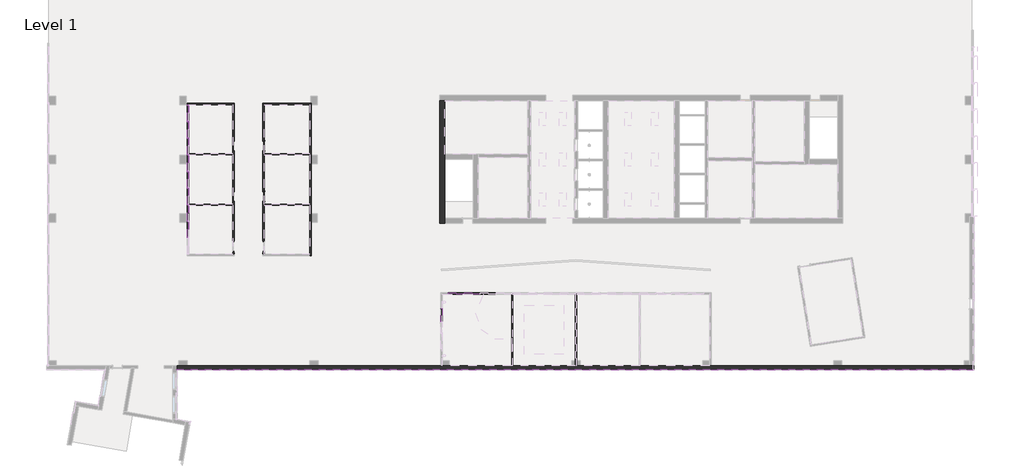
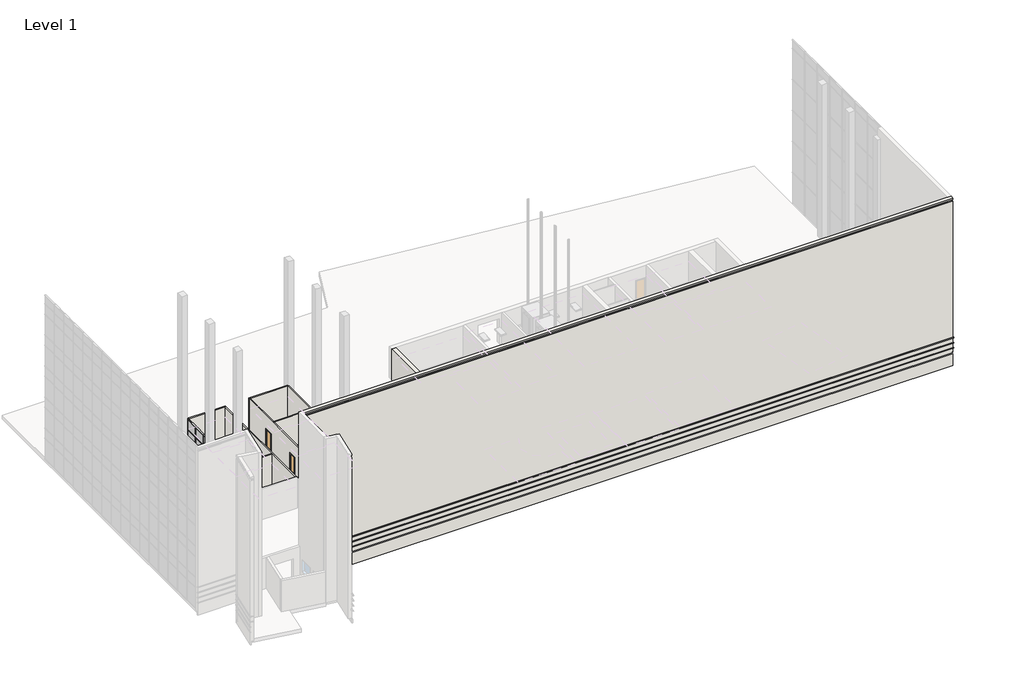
# One storey, part 6 of 23: 51 members, 19 plates, 14 walls, 4 doors, 3 proxies.
"""IFC4 building model written with IfcOpenShell, lengths in millimetres."""

from ifc_helpers import new_model, si_unit, frame, origin, origin_with_axes, place, context, project, spatial, polyline, outline, extrude, faceted_brep, transform, mapped, element, save
from components import door_82111de5, door_92889684, member_fc09b6aa, member_75074519, member_9597caa3, member_b2bde9e6, member_131a91bd, member_8e4b14e5, member_5adcf121, member_e7ed5742, member_d635bea1, member_19b6149e, member_866a01fa, member_d7472725, system_panel_glazed_f771dc8d, system_panel_glazed_f1d9fa5b, system_panel_glazed_9bc9b24f, system_panel_glazed_76e4750d, system_panel_solid_dc1d4dd7, system_panel_solid_f9884c24

model = new_model("IFC4")

# Units and contexts
model_context = context("Model", 3, world=origin())
ifc_project = project(units=[si_unit("LENGTHUNIT", "METRE", prefix="MILLI")], contexts=[model_context])

# Site, building, storey
site = spatial("IfcSite", under=ifc_project)
building = spatial("IfcBuilding", under=site)
storey = spatial("IfcBuildingStorey", under=building, Name="Level 1", Elevation=0.0)

# Proxies
placement = place(None, origin())
element("IfcBuildingElementProxy", 1, Name="Reveals", at=placement, inside=storey, context=model_context, shape_type="SweptSolid", body=[
    extrude(outline(polyline([(15157.6054088, -28056.8103492), (15249.6804088, -28148.8853492), (-57009.4125003, -28148.8853492), (-57101.4875003, -28056.8103492), (15157.6054088, -28056.8103492)])), frame((0.0, 0.0, 1625.6), z_axis=(0.0, 0.0, 1.0), x_axis=(1.0, 0.0, 0.0)), (0.0, 0.0, 1.0), 67.7333333),
])
element("IfcBuildingElementProxy", 2, Name="Reveals", at=placement, inside=storey, context=model_context, shape_type="SweptSolid", body=[
    extrude(outline(polyline([(15157.6054088, -28056.8103492), (15249.6804088, -28148.8853492), (-57009.4125003, -28148.8853492), (-57101.4875003, -28056.8103492), (15157.6054088, -28056.8103492)])), frame((0.0, 0.0, 2235.2), z_axis=(0.0, 0.0, 1.0), x_axis=(1.0, 0.0, 0.0)), (0.0, 0.0, 1.0), 67.7333333),
])
element("IfcBuildingElementProxy", 3, Name="Reveals", at=placement, inside=storey, context=model_context, shape_type="SweptSolid", body=[
    extrude(outline(polyline([(15157.6054088, -28056.8103492), (15249.6804088, -28148.8853492), (-57009.4125003, -28148.8853492), (-57101.4875003, -28056.8103492), (15157.6054088, -28056.8103492)])), frame((0.0, 0.0, 2844.8), z_axis=(0.0, 0.0, 1.0), x_axis=(1.0, 0.0, 0.0)), (0.0, 0.0, 1.0), 67.7333333),
])

# Doors
door_shape = door_82111de5(model_context)
element("IfcDoor", 4, ObjectType="Single-Flush : 34\" x 80\"", at=placement, inside=storey, context=model_context, shape_type="MappedRepresentation", body=[
    mapped(door_shape, transform((-51923.5856498, -12385.0103492, 0.0), x_axis=(0.0, -1.0, 0.0), y_axis=(1.0, 0.0, 0.0), z_axis=(0.0, 0.0, 1.0))),
])
element("IfcDoor", 5, ObjectType="Single-Flush : 34\" x 80\"", at=placement, inside=storey, context=model_context, shape_type="MappedRepresentation", body=[
    mapped(door_shape, transform((-51923.5856498, -7813.0103492, 0.0), x_axis=(0.0, -1.0, 0.0), y_axis=(1.0, 0.0, 0.0), z_axis=(0.0, 0.0, 1.0))),
])
door_2_shape = door_92889684(model_context)
element("IfcDoor", 6, ObjectType="Single-Flush : 34\" x 80\"", at=placement, inside=storey, context=model_context, shape_type="MappedRepresentation", body=[
    mapped(door_2_shape, transform((-49194.8999355, -12385.0103492, 0.0), x_axis=(0.0, -1.0, 0.0), y_axis=(1.0, 0.0, 0.0), z_axis=(0.0, 0.0, 1.0))),
])
element("IfcDoor", 7, ObjectType="Single-Flush : 34\" x 80\"", at=placement, inside=storey, context=model_context, shape_type="MappedRepresentation", body=[
    mapped(door_2_shape, transform((-49194.8999355, -7813.0103492, 0.0), x_axis=(0.0, -1.0, 0.0), y_axis=(1.0, 0.0, 0.0), z_axis=(0.0, 0.0, 1.0))),
])

# Members
member_shape = member_fc09b6aa(model_context)
element("IfcMember", 8, ObjectType="Rectangular Mullion : 2.5\" x 5\" rectangular", at=placement, inside=storey, context=model_context, shape_type="MappedRepresentation", body=[
    mapped(member_shape, transform((-56063.7856498, -14635.7325714, 2438.4), x_axis=(0.0, 0.0, 1.0), y_axis=(1.0, 0.0, 0.0), z_axis=(0.0, 1.0, 0.0))),
])
element("IfcMember", 9, ObjectType="Rectangular Mullion : 2.5\" x 5\" rectangular", at=placement, inside=storey, context=model_context, shape_type="MappedRepresentation", body=[
    mapped(member_shape, transform((-56063.7856498, -13125.8436825, 2438.4), x_axis=(0.0, 0.0, 1.0), y_axis=(1.0, 0.0, 0.0), z_axis=(0.0, 1.0, 0.0))),
])
element("IfcMember", 10, ObjectType="Rectangular Mullion : 2.5\" x 5\" rectangular", at=placement, inside=storey, context=model_context, shape_type="MappedRepresentation", body=[
    mapped(member_shape, transform((-56063.7856498, -11615.9547936, 2438.4), x_axis=(0.0, 0.0, 1.0), y_axis=(1.0, 0.0, 0.0), z_axis=(0.0, 1.0, 0.0))),
])
element("IfcMember", 11, ObjectType="Rectangular Mullion : 2.5\" x 5\" rectangular", at=placement, inside=storey, context=model_context, shape_type="MappedRepresentation", body=[
    mapped(member_shape, transform((-56063.7856498, -10106.0659048, 2438.4), x_axis=(0.0, 0.0, 1.0), y_axis=(1.0, 0.0, 0.0), z_axis=(0.0, 1.0, 0.0))),
])
element("IfcMember", 12, ObjectType="Rectangular Mullion : 2.5\" x 5\" rectangular", at=placement, inside=storey, context=model_context, shape_type="MappedRepresentation", body=[
    mapped(member_shape, transform((-56063.7856498, -8596.1770159, 2438.4), x_axis=(0.0, 0.0, 1.0), y_axis=(1.0, 0.0, 0.0), z_axis=(0.0, 1.0, 0.0))),
])
element("IfcMember", 13, ObjectType="Rectangular Mullion : 2.5\" x 5\" rectangular", at=placement, inside=storey, context=model_context, shape_type="MappedRepresentation", body=[
    mapped(member_shape, transform((-56063.7856498, -7086.288127, 2438.4), x_axis=(0.0, 0.0, 1.0), y_axis=(1.0, 0.0, 0.0), z_axis=(0.0, 1.0, 0.0))),
])
element("IfcMember", 14, ObjectType="Rectangular Mullion : 2.5\" x 5\" rectangular", at=placement, inside=storey, context=model_context, shape_type="MappedRepresentation", body=[
    mapped(member_shape, transform((-56063.7856498, -5576.3992381, 2438.4), x_axis=(0.0, 0.0, 1.0), y_axis=(1.0, 0.0, 0.0), z_axis=(0.0, 1.0, 0.0))),
])
member_2_shape = member_75074519(model_context)
element("IfcMember", 15, ObjectType="Rectangular Mullion : 2.5\" x 5\" rectangular", at=placement, inside=storey, context=model_context, shape_type="MappedRepresentation", body=[
    mapped(member_2_shape, transform((-33067.7142212, -22546.5978492, 2413.0), x_axis=(0.0, 0.0, 1.0), y_axis=(1.0, 0.0, 0.0), z_axis=(0.0, 1.0, 0.0))),
])
member_3_shape = member_9597caa3(model_context)
element("IfcMember", 16, ObjectType="Rectangular Mullion : 2.5\" x 5\" rectangular", at=placement, inside=storey, context=model_context, shape_type="MappedRepresentation", body=[
    mapped(member_3_shape, transform((-56063.7856498, -14635.7325714, 63.5), x_axis=(0.0, 1.0, 0.0), y_axis=(1.0, 0.0, 0.0), z_axis=(0.0, 0.0, -1.0))),
])
element("IfcMember", 17, ObjectType="Rectangular Mullion : 2.5\" x 5\" rectangular", at=placement, inside=storey, context=model_context, shape_type="MappedRepresentation", body=[
    mapped(member_3_shape, transform((-56063.7856498, -13125.8436825, 63.5), x_axis=(0.0, 1.0, 0.0), y_axis=(1.0, 0.0, 0.0), z_axis=(0.0, 0.0, -1.0))),
])
element("IfcMember", 18, ObjectType="Rectangular Mullion : 2.5\" x 5\" rectangular", at=placement, inside=storey, context=model_context, shape_type="MappedRepresentation", body=[
    mapped(member_3_shape, transform((-56063.7856498, -11615.9547936, 63.5), x_axis=(0.0, 1.0, 0.0), y_axis=(1.0, 0.0, 0.0), z_axis=(0.0, 0.0, -1.0))),
])
element("IfcMember", 19, ObjectType="Rectangular Mullion : 2.5\" x 5\" rectangular", at=placement, inside=storey, context=model_context, shape_type="MappedRepresentation", body=[
    mapped(member_3_shape, transform((-56063.7856498, -10106.0659048, 63.5), x_axis=(0.0, 1.0, 0.0), y_axis=(1.0, 0.0, 0.0), z_axis=(0.0, 0.0, -1.0))),
])
element("IfcMember", 20, ObjectType="Rectangular Mullion : 2.5\" x 5\" rectangular", at=placement, inside=storey, context=model_context, shape_type="MappedRepresentation", body=[
    mapped(member_3_shape, transform((-56063.7856498, -8596.1770159, 63.5), x_axis=(0.0, 1.0, 0.0), y_axis=(1.0, 0.0, 0.0), z_axis=(0.0, 0.0, -1.0))),
])
element("IfcMember", 21, ObjectType="Rectangular Mullion : 2.5\" x 5\" rectangular", at=placement, inside=storey, context=model_context, shape_type="MappedRepresentation", body=[
    mapped(member_3_shape, transform((-56063.7856498, -7086.288127, 63.5), x_axis=(0.0, 1.0, 0.0), y_axis=(1.0, 0.0, 0.0), z_axis=(0.0, 0.0, -1.0))),
])
element("IfcMember", 22, ObjectType="Rectangular Mullion : 2.5\" x 5\" rectangular", at=placement, inside=storey, context=model_context, shape_type="MappedRepresentation", body=[
    mapped(member_3_shape, transform((-56063.7856498, -5576.3992381, 63.5), x_axis=(0.0, 1.0, 0.0), y_axis=(1.0, 0.0, 0.0), z_axis=(0.0, 0.0, -1.0))),
])
member_4_shape = member_b2bde9e6(model_context)
element("IfcMember", 23, ObjectType="Rectangular Mullion : 2.5\" x 5\" rectangular", at=placement, inside=storey, context=model_context, shape_type="MappedRepresentation", body=[
    mapped(member_4_shape, transform((-56063.7856498, -4066.5103492, 63.5), x_axis=(0.0, 1.0, 0.0), y_axis=(1.0, 0.0, 0.0), z_axis=(0.0, 0.0, -1.0))),
])
member_5_shape = member_131a91bd(model_context)
element("IfcMember", 24, ObjectType="Rectangular Mullion : 2.5\" x 5\" rectangular", at=placement, inside=storey, context=model_context, shape_type="MappedRepresentation", body=[
    mapped(member_5_shape, transform((-56063.7856498, -4066.5103492, 3657.6), x_axis=(0.0, 0.0, 1.0), y_axis=(1.0, 0.0, 0.0), z_axis=(0.0, 1.0, 0.0))),
])
element("IfcMember", 25, ObjectType="Rectangular Mullion : 2.5\" x 5\" rectangular", at=placement, inside=storey, context=model_context, shape_type="MappedRepresentation", body=[
    mapped(member_5_shape, transform((-56063.7856498, -14635.7325714, 3657.6), x_axis=(0.0, 0.0, 1.0), y_axis=(1.0, 0.0, 0.0), z_axis=(0.0, 1.0, 0.0))),
])
element("IfcMember", 26, ObjectType="Rectangular Mullion : 2.5\" x 5\" rectangular", at=placement, inside=storey, context=model_context, shape_type="MappedRepresentation", body=[
    mapped(member_5_shape, transform((-56063.7856498, -13125.8436825, 3657.6), x_axis=(0.0, 0.0, 1.0), y_axis=(1.0, 0.0, 0.0), z_axis=(0.0, 1.0, 0.0))),
])
element("IfcMember", 27, ObjectType="Rectangular Mullion : 2.5\" x 5\" rectangular", at=placement, inside=storey, context=model_context, shape_type="MappedRepresentation", body=[
    mapped(member_5_shape, transform((-56063.7856498, -11615.9547936, 3657.6), x_axis=(0.0, 0.0, 1.0), y_axis=(1.0, 0.0, 0.0), z_axis=(0.0, 1.0, 0.0))),
])
element("IfcMember", 28, ObjectType="Rectangular Mullion : 2.5\" x 5\" rectangular", at=placement, inside=storey, context=model_context, shape_type="MappedRepresentation", body=[
    mapped(member_5_shape, transform((-56063.7856498, -10106.0659048, 3657.6), x_axis=(0.0, 0.0, 1.0), y_axis=(1.0, 0.0, 0.0), z_axis=(0.0, 1.0, 0.0))),
])
element("IfcMember", 29, ObjectType="Rectangular Mullion : 2.5\" x 5\" rectangular", at=placement, inside=storey, context=model_context, shape_type="MappedRepresentation", body=[
    mapped(member_5_shape, transform((-56063.7856498, -8596.1770159, 3657.6), x_axis=(0.0, 0.0, 1.0), y_axis=(1.0, 0.0, 0.0), z_axis=(0.0, 1.0, 0.0))),
])
element("IfcMember", 30, ObjectType="Rectangular Mullion : 2.5\" x 5\" rectangular", at=placement, inside=storey, context=model_context, shape_type="MappedRepresentation", body=[
    mapped(member_5_shape, transform((-56063.7856498, -7086.288127, 3657.6), x_axis=(0.0, 0.0, 1.0), y_axis=(1.0, 0.0, 0.0), z_axis=(0.0, 1.0, 0.0))),
])
element("IfcMember", 31, ObjectType="Rectangular Mullion : 2.5\" x 5\" rectangular", at=placement, inside=storey, context=model_context, shape_type="MappedRepresentation", body=[
    mapped(member_5_shape, transform((-56063.7856498, -5576.3992381, 3657.6), x_axis=(0.0, 0.0, 1.0), y_axis=(1.0, 0.0, 0.0), z_axis=(0.0, 1.0, 0.0))),
])
element("IfcMember", 32, ObjectType="Rectangular Mullion : 2.5\" x 5\" rectangular", at=placement, inside=storey, context=model_context, shape_type="MappedRepresentation", body=[
    mapped(member_5_shape, transform((-56063.7856498, -14635.7325714, 0.0), x_axis=(0.0, 0.0, -1.0), y_axis=(1.0, 0.0, 0.0), z_axis=(0.0, -1.0, 0.0))),
])
element("IfcMember", 33, ObjectType="Rectangular Mullion : 2.5\" x 5\" rectangular", at=placement, inside=storey, context=model_context, shape_type="MappedRepresentation", body=[
    mapped(member_5_shape, transform((-56063.7856498, -13125.8436825, 0.0), x_axis=(0.0, 0.0, -1.0), y_axis=(1.0, 0.0, 0.0), z_axis=(0.0, -1.0, 0.0))),
])
element("IfcMember", 34, ObjectType="Rectangular Mullion : 2.5\" x 5\" rectangular", at=placement, inside=storey, context=model_context, shape_type="MappedRepresentation", body=[
    mapped(member_5_shape, transform((-56063.7856498, -11615.9547936, 0.0), x_axis=(0.0, 0.0, -1.0), y_axis=(1.0, 0.0, 0.0), z_axis=(0.0, -1.0, 0.0))),
])
element("IfcMember", 35, ObjectType="Rectangular Mullion : 2.5\" x 5\" rectangular", at=placement, inside=storey, context=model_context, shape_type="MappedRepresentation", body=[
    mapped(member_5_shape, transform((-56063.7856498, -10106.0659048, 0.0), x_axis=(0.0, 0.0, -1.0), y_axis=(1.0, 0.0, 0.0), z_axis=(0.0, -1.0, 0.0))),
])
element("IfcMember", 36, ObjectType="Rectangular Mullion : 2.5\" x 5\" rectangular", at=placement, inside=storey, context=model_context, shape_type="MappedRepresentation", body=[
    mapped(member_5_shape, transform((-56063.7856498, -8596.1770159, 0.0), x_axis=(0.0, 0.0, -1.0), y_axis=(1.0, 0.0, 0.0), z_axis=(0.0, -1.0, 0.0))),
])
element("IfcMember", 37, ObjectType="Rectangular Mullion : 2.5\" x 5\" rectangular", at=placement, inside=storey, context=model_context, shape_type="MappedRepresentation", body=[
    mapped(member_5_shape, transform((-56063.7856498, -7086.288127, 0.0), x_axis=(0.0, 0.0, -1.0), y_axis=(1.0, 0.0, 0.0), z_axis=(0.0, -1.0, 0.0))),
])
element("IfcMember", 38, ObjectType="Rectangular Mullion : 2.5\" x 5\" rectangular", at=placement, inside=storey, context=model_context, shape_type="MappedRepresentation", body=[
    mapped(member_5_shape, transform((-56063.7856498, -5576.3992381, 0.0), x_axis=(0.0, 0.0, -1.0), y_axis=(1.0, 0.0, 0.0), z_axis=(0.0, -1.0, 0.0))),
])
member_6_shape = member_8e4b14e5(model_context)
element("IfcMember", 39, ObjectType="Rectangular Mullion : 2.5\" x 5\" rectangular", at=placement, inside=storey, context=model_context, shape_type="MappedRepresentation", body=[
    mapped(member_6_shape, transform((-56063.7856498, -4130.0103492, 2438.4), x_axis=(0.0, 0.0, 1.0), y_axis=(1.0, 0.0, 0.0), z_axis=(0.0, 1.0, 0.0))),
])
member_7_shape = member_5adcf121(model_context)
element("IfcMember", 40, ObjectType="Rectangular Mullion : 2.5\" x 5\" rectangular", at=placement, inside=storey, context=model_context, shape_type="MappedRepresentation", body=[
    mapped(member_7_shape, transform((-33067.7142212, -23765.7978492, 38.1), x_axis=(0.0, 1.0, 0.0), y_axis=(1.0, 0.0, 0.0), z_axis=(0.0, 0.0, -1.0))),
])
element("IfcMember", 41, ObjectType="Rectangular Mullion : 2.5\" x 5\" rectangular", at=placement, inside=storey, context=model_context, shape_type="MappedRepresentation", body=[
    mapped(member_7_shape, transform((-30990.1302926, -21198.8103492, 38.1), x_axis=(1.0, 0.0, 0.0), y_axis=(0.0, -1.0, 0.0), z_axis=(0.0, 0.0, -1.0))),
])
element("IfcMember", 42, ObjectType="Rectangular Mullion : 2.5\" x 5\" rectangular", at=placement, inside=storey, context=model_context, shape_type="MappedRepresentation", body=[
    mapped(member_7_shape, transform((-29543.9177926, -21198.8103492, 38.1), x_axis=(1.0, 0.0, 0.0), y_axis=(0.0, -1.0, 0.0), z_axis=(0.0, 0.0, -1.0))),
])
member_8_shape = member_e7ed5742(model_context)
element("IfcMember", 43, ObjectType="Rectangular Mullion : 2.5\" x 5\" rectangular", at=placement, inside=storey, context=model_context, shape_type="MappedRepresentation", body=[
    mapped(member_8_shape, transform((-33067.7142212, -22546.5978492, 38.1), x_axis=(0.0, 1.0, 0.0), y_axis=(1.0, 0.0, 0.0), z_axis=(0.0, 0.0, -1.0))),
])
element("IfcMember", 44, ObjectType="Rectangular Mullion : 2.5\" x 5\" rectangular", at=placement, inside=storey, context=model_context, shape_type="MappedRepresentation", body=[
    mapped(member_8_shape, transform((-32436.3427926, -21198.8103492, 2349.5), x_axis=(-1.0, 0.0, 0.0), y_axis=(0.0, -1.0, 0.0), z_axis=(0.0, 0.0, 1.0))),
])
member_9_shape = member_d635bea1(model_context)
element("IfcMember", 45, ObjectType="Rectangular Mullion : 2.5\" x 5\" rectangular", at=placement, inside=storey, context=model_context, shape_type="MappedRepresentation", body=[
    mapped(member_9_shape, transform((-33067.7142212, -23797.5478492, -25.4), x_axis=(0.0, 0.0, -1.0), y_axis=(1.0, 0.0, 0.0), z_axis=(0.0, -1.0, 0.0))),
])
member_10_shape = member_19b6149e(model_context)
element("IfcMember", 46, ObjectType="Rectangular Mullion : 2.5\" x 5\" rectangular", at=placement, inside=storey, context=model_context, shape_type="MappedRepresentation", body=[
    mapped(member_10_shape, transform((-30990.1302926, -21198.8103492, 2413.0), x_axis=(0.0, 0.0, 1.0), y_axis=(0.0, -1.0, 0.0), z_axis=(1.0, 0.0, 0.0))),
])
element("IfcMember", 47, ObjectType="Rectangular Mullion : 2.5\" x 5\" rectangular", at=placement, inside=storey, context=model_context, shape_type="MappedRepresentation", body=[
    mapped(member_10_shape, transform((-29543.9177926, -21198.8103492, 2413.0), x_axis=(0.0, 0.0, 1.0), y_axis=(0.0, -1.0, 0.0), z_axis=(1.0, 0.0, 0.0))),
])
element("IfcMember", 48, ObjectType="Rectangular Mullion : 2.5\" x 5\" rectangular", at=placement, inside=storey, context=model_context, shape_type="MappedRepresentation", body=[
    mapped(member_10_shape, transform((-32436.3427926, -21198.8103492, -25.4), x_axis=(0.0, 0.0, -1.0), y_axis=(0.0, -1.0, 0.0), z_axis=(-1.0, 0.0, 0.0))),
])
element("IfcMember", 49, ObjectType="Rectangular Mullion : 2.5\" x 5\" rectangular", at=placement, inside=storey, context=model_context, shape_type="MappedRepresentation", body=[
    mapped(member_10_shape, transform((-30990.1302926, -21198.8103492, -25.4), x_axis=(0.0, 0.0, -1.0), y_axis=(0.0, -1.0, 0.0), z_axis=(-1.0, 0.0, 0.0))),
])
element("IfcMember", 50, ObjectType="Rectangular Mullion : 2.5\" x 5\" rectangular", at=placement, inside=storey, context=model_context, shape_type="MappedRepresentation", body=[
    mapped(member_10_shape, transform((-29543.9177926, -21198.8103492, -25.4), x_axis=(0.0, 0.0, -1.0), y_axis=(0.0, -1.0, 0.0), z_axis=(-1.0, 0.0, 0.0))),
])
member_11_shape = member_866a01fa(model_context)
element("IfcMember", 51, ObjectType="Rectangular Mullion : 2.5\" x 5\" rectangular", at=placement, inside=storey, context=model_context, shape_type="MappedRepresentation", body=[
    mapped(member_11_shape, transform((-56063.7856498, -14635.7325714, 2470.15), x_axis=(0.0, 1.0, 0.0), y_axis=(1.0, 0.0, 0.0), z_axis=(0.0, 0.0, -1.0))),
])
element("IfcMember", 52, ObjectType="Rectangular Mullion : 2.5\" x 5\" rectangular", at=placement, inside=storey, context=model_context, shape_type="MappedRepresentation", body=[
    mapped(member_11_shape, transform((-56063.7856498, -13125.8436825, 2470.15), x_axis=(0.0, 1.0, 0.0), y_axis=(1.0, 0.0, 0.0), z_axis=(0.0, 0.0, -1.0))),
])
element("IfcMember", 53, ObjectType="Rectangular Mullion : 2.5\" x 5\" rectangular", at=placement, inside=storey, context=model_context, shape_type="MappedRepresentation", body=[
    mapped(member_11_shape, transform((-56063.7856498, -11615.9547936, 2470.15), x_axis=(0.0, 1.0, 0.0), y_axis=(1.0, 0.0, 0.0), z_axis=(0.0, 0.0, -1.0))),
])
element("IfcMember", 54, ObjectType="Rectangular Mullion : 2.5\" x 5\" rectangular", at=placement, inside=storey, context=model_context, shape_type="MappedRepresentation", body=[
    mapped(member_11_shape, transform((-56063.7856498, -10106.0659048, 2470.15), x_axis=(0.0, 1.0, 0.0), y_axis=(1.0, 0.0, 0.0), z_axis=(0.0, 0.0, -1.0))),
])
element("IfcMember", 55, ObjectType="Rectangular Mullion : 2.5\" x 5\" rectangular", at=placement, inside=storey, context=model_context, shape_type="MappedRepresentation", body=[
    mapped(member_11_shape, transform((-56063.7856498, -8596.1770159, 2470.15), x_axis=(0.0, 1.0, 0.0), y_axis=(1.0, 0.0, 0.0), z_axis=(0.0, 0.0, -1.0))),
])
element("IfcMember", 56, ObjectType="Rectangular Mullion : 2.5\" x 5\" rectangular", at=placement, inside=storey, context=model_context, shape_type="MappedRepresentation", body=[
    mapped(member_11_shape, transform((-56063.7856498, -7086.288127, 2470.15), x_axis=(0.0, 1.0, 0.0), y_axis=(1.0, 0.0, 0.0), z_axis=(0.0, 0.0, -1.0))),
])
element("IfcMember", 57, ObjectType="Rectangular Mullion : 2.5\" x 5\" rectangular", at=placement, inside=storey, context=model_context, shape_type="MappedRepresentation", body=[
    mapped(member_11_shape, transform((-56063.7856498, -5576.3992381, 2470.15), x_axis=(0.0, 1.0, 0.0), y_axis=(1.0, 0.0, 0.0), z_axis=(0.0, 0.0, -1.0))),
])
member_12_shape = member_d7472725(model_context)
element("IfcMember", 58, ObjectType="Rectangular Mullion : 2.5\" x 5\" rectangular", at=placement, inside=storey, context=model_context, shape_type="MappedRepresentation", body=[
    mapped(member_12_shape, transform((-56063.7856498, -4066.5103492, 2438.4), x_axis=(0.0, 1.0, 0.0), y_axis=(1.0, 0.0, 0.0), z_axis=(0.0, 0.0, -1.0))),
])

# Plates
system_panel_glazed_shape = system_panel_glazed_f771dc8d(model_context)
element("IfcPlate", 59, ObjectType="System Panel : Glazed", at=placement, inside=storey, context=model_context, shape_type="MappedRepresentation", body=[
    mapped(system_panel_glazed_shape, transform((-56063.7856498, -4837.3297936, 63.5), x_axis=(0.0, 1.0, 0.0), y_axis=(-1.0, 0.0, 0.0), z_axis=(0.0, 0.0, 1.0))),
])
system_panel_glazed_2_shape = system_panel_glazed_f1d9fa5b(model_context)
element("IfcPlate", 60, ObjectType="System Panel : Glazed", at=placement, inside=storey, context=model_context, shape_type="MappedRepresentation", body=[
    mapped(system_panel_glazed_2_shape, transform((-56063.7856498, -15390.6770159, 63.5), x_axis=(0.0, 1.0, 0.0), y_axis=(-1.0, 0.0, 0.0), z_axis=(0.0, 0.0, 1.0))),
])
element("IfcPlate", 61, ObjectType="System Panel : Glazed", at=placement, inside=storey, context=model_context, shape_type="MappedRepresentation", body=[
    mapped(system_panel_glazed_2_shape, transform((-56063.7856498, -13880.788127, 63.5), x_axis=(0.0, 1.0, 0.0), y_axis=(-1.0, 0.0, 0.0), z_axis=(0.0, 0.0, 1.0))),
])
element("IfcPlate", 62, ObjectType="System Panel : Glazed", at=placement, inside=storey, context=model_context, shape_type="MappedRepresentation", body=[
    mapped(system_panel_glazed_2_shape, transform((-56063.7856498, -12370.8992381, 63.5), x_axis=(0.0, 1.0, 0.0), y_axis=(-1.0, 0.0, 0.0), z_axis=(0.0, 0.0, 1.0))),
])
element("IfcPlate", 63, ObjectType="System Panel : Glazed", at=placement, inside=storey, context=model_context, shape_type="MappedRepresentation", body=[
    mapped(system_panel_glazed_2_shape, transform((-56063.7856498, -10861.0103492, 63.5), x_axis=(0.0, 1.0, 0.0), y_axis=(-1.0, 0.0, 0.0), z_axis=(0.0, 0.0, 1.0))),
])
element("IfcPlate", 64, ObjectType="System Panel : Glazed", at=placement, inside=storey, context=model_context, shape_type="MappedRepresentation", body=[
    mapped(system_panel_glazed_2_shape, transform((-56063.7856498, -9351.1214603, 63.5), x_axis=(0.0, 1.0, 0.0), y_axis=(-1.0, 0.0, 0.0), z_axis=(0.0, 0.0, 1.0))),
])
element("IfcPlate", 65, ObjectType="System Panel : Glazed", at=placement, inside=storey, context=model_context, shape_type="MappedRepresentation", body=[
    mapped(system_panel_glazed_2_shape, transform((-56063.7856498, -7841.2325714, 63.5), x_axis=(0.0, 1.0, 0.0), y_axis=(-1.0, 0.0, 0.0), z_axis=(0.0, 0.0, 1.0))),
])
element("IfcPlate", 66, ObjectType="System Panel : Glazed", at=placement, inside=storey, context=model_context, shape_type="MappedRepresentation", body=[
    mapped(system_panel_glazed_2_shape, transform((-56063.7856498, -6331.3436825, 63.5), x_axis=(0.0, 1.0, 0.0), y_axis=(-1.0, 0.0, 0.0), z_axis=(0.0, 0.0, 1.0))),
])
system_panel_glazed_3_shape = system_panel_glazed_9bc9b24f(model_context)
element("IfcPlate", 67, ObjectType="System Panel : Glazed", at=placement, inside=storey, context=model_context, shape_type="MappedRepresentation", body=[
    mapped(system_panel_glazed_3_shape, transform((-31697.3615426, -21198.8103492, 38.1), x_axis=(1.0, 0.0, 0.0), y_axis=(0.0, 1.0, 0.0), z_axis=(0.0, 0.0, 1.0))),
])
system_panel_glazed_4_shape = system_panel_glazed_76e4750d(model_context)
element("IfcPlate", 68, ObjectType="System Panel : Glazed", at=placement, inside=storey, context=model_context, shape_type="MappedRepresentation", body=[
    mapped(system_panel_glazed_4_shape, transform((-30267.0240426, -21198.8103492, 38.1), x_axis=(1.0, 0.0, 0.0), y_axis=(0.0, 1.0, 0.0), z_axis=(0.0, 0.0, 1.0))),
])
element("IfcPlate", 69, ObjectType="System Panel : Glazed", at=placement, inside=storey, context=model_context, shape_type="MappedRepresentation", body=[
    mapped(system_panel_glazed_4_shape, transform((-28820.8115426, -21198.8103492, 38.1), x_axis=(1.0, 0.0, 0.0), y_axis=(0.0, 1.0, 0.0), z_axis=(0.0, 0.0, 1.0))),
])
system_panel_solid_shape = system_panel_solid_dc1d4dd7(model_context)
element("IfcPlate", 70, ObjectType="System Panel : Solid", at=placement, inside=storey, context=model_context, shape_type="MappedRepresentation", body=[
    mapped(system_panel_solid_shape, transform((-56063.7856498, -4837.3297936, 2470.15), x_axis=(0.0, 1.0, 0.0), y_axis=(-1.0, 0.0, 0.0), z_axis=(0.0, 0.0, 1.0))),
])
system_panel_solid_2_shape = system_panel_solid_f9884c24(model_context)
element("IfcPlate", 71, ObjectType="System Panel : Solid", at=placement, inside=storey, context=model_context, shape_type="MappedRepresentation", body=[
    mapped(system_panel_solid_2_shape, transform((-56063.7856498, -15390.6770159, 2470.15), x_axis=(0.0, 1.0, 0.0), y_axis=(-1.0, 0.0, 0.0), z_axis=(0.0, 0.0, 1.0))),
])
element("IfcPlate", 72, ObjectType="System Panel : Solid", at=placement, inside=storey, context=model_context, shape_type="MappedRepresentation", body=[
    mapped(system_panel_solid_2_shape, transform((-56063.7856498, -13880.788127, 2470.15), x_axis=(0.0, 1.0, 0.0), y_axis=(-1.0, 0.0, 0.0), z_axis=(0.0, 0.0, 1.0))),
])
element("IfcPlate", 73, ObjectType="System Panel : Solid", at=placement, inside=storey, context=model_context, shape_type="MappedRepresentation", body=[
    mapped(system_panel_solid_2_shape, transform((-56063.7856498, -12370.8992381, 2470.15), x_axis=(0.0, 1.0, 0.0), y_axis=(-1.0, 0.0, 0.0), z_axis=(0.0, 0.0, 1.0))),
])
element("IfcPlate", 74, ObjectType="System Panel : Solid", at=placement, inside=storey, context=model_context, shape_type="MappedRepresentation", body=[
    mapped(system_panel_solid_2_shape, transform((-56063.7856498, -10861.0103492, 2470.15), x_axis=(0.0, 1.0, 0.0), y_axis=(-1.0, 0.0, 0.0), z_axis=(0.0, 0.0, 1.0))),
])
element("IfcPlate", 75, ObjectType="System Panel : Solid", at=placement, inside=storey, context=model_context, shape_type="MappedRepresentation", body=[
    mapped(system_panel_solid_2_shape, transform((-56063.7856498, -9351.1214603, 2470.15), x_axis=(0.0, 1.0, 0.0), y_axis=(-1.0, 0.0, 0.0), z_axis=(0.0, 0.0, 1.0))),
])
element("IfcPlate", 76, ObjectType="System Panel : Solid", at=placement, inside=storey, context=model_context, shape_type="MappedRepresentation", body=[
    mapped(system_panel_solid_2_shape, transform((-56063.7856498, -7841.2325714, 2470.15), x_axis=(0.0, 1.0, 0.0), y_axis=(-1.0, 0.0, 0.0), z_axis=(0.0, 0.0, 1.0))),
])
element("IfcPlate", 77, ObjectType="System Panel : Solid", at=placement, inside=storey, context=model_context, shape_type="MappedRepresentation", body=[
    mapped(system_panel_solid_2_shape, transform((-56063.7856498, -6331.3436825, 2470.15), x_axis=(0.0, 1.0, 0.0), y_axis=(-1.0, 0.0, 0.0), z_axis=(0.0, 0.0, 1.0))),
])

# Walls
element("IfcWall", 78, ObjectType="Core-shaft 18\" Concrete", at=placement, inside=storey, context=model_context, shape_type="Brep", body=[
    faceted_brep([(-32750.2142212, -14823.4103492, 0.0), (-32750.2142212, -14366.2103492, 0.0), (-32750.2142212, -9032.2103492, 0.0), (-32750.2142212, -8575.0103492, 0.0), (-32750.2142212, -3698.2103492, 0.0), (-32750.2142212, -3698.2103492, 3657.6), (-32750.2142212, -8575.0103492, 3657.6), (-32750.2142212, -9032.2103492, 3657.6), (-32750.2142212, -14366.2103492, 3657.6), (-32750.2142212, -14823.4103492, 3657.6), (-33207.4142212, -14823.4103492, 0.0), (-33207.4142212, -14823.4103492, 3657.6), (-33207.4142212, -3698.2103492, 3657.6), (-33207.4142212, -3698.2103492, 0.0)], [[[0, 1, 2, 3, 4, 5, 6, 7, 8, 9]], [[10, 11, 12, 13]], [[4, 3, 2, 1, 0, 10, 13]], [[9, 8, 7, 6, 5, 12, 11]], [[0, 9, 11, 10]], [[5, 4, 13, 12]]]),
])
element("IfcWall", 79, ObjectType="Exterior - Brick and CMU on MTL. Stud", at=placement, inside=storey, context=model_context, shape_type="Brep", body=[
    faceted_brep([(15183.0054088, -27729.7853492, 0.0), (14830.5804088, -27729.7853492, 0.0), (-8623.8427926, -27729.7853492, 0.0), (-8750.8427926, -27729.7853492, 0.0), (-15018.2927926, -27729.7853492, 0.0), (-15145.2927926, -27729.7853492, 0.0), (-20814.0285069, -27729.7853492, 0.0), (-20941.0285069, -27729.7853492, 0.0), (-26587.9927926, -27729.7853492, 0.0), (-26714.9927926, -27729.7853492, 0.0), (-33004.2142212, -27729.7853492, 0.0), (-33131.2142212, -27729.7853492, 0.0), (-57076.0875003, -27729.7853492, 0.0), (-57076.0875003, -27729.7853492, 19304.0), (14830.5804088, -27729.7853492, 19304.0), (15183.0054088, -27729.7853492, 19304.0), (15183.0054088, -27729.7853492, 19100.8), (15090.9304088, -27729.7853492, 19100.8), (15090.9304088, -27729.7853492, 18897.6), (15183.0054088, -27729.7853492, 18897.6), (15183.0054088, -27729.7853492, 2912.5333333), (15157.6054088, -27729.7853492, 2912.5333333), (15157.6054088, -27729.7853492, 2844.8), (15183.0054088, -27729.7853492, 2844.8), (15183.0054088, -27729.7853492, 2302.9333333), (15157.6054088, -27729.7853492, 2302.9333333), (15157.6054088, -27729.7853492, 2235.2), (15183.0054088, -27729.7853492, 2235.2), (15183.0054088, -27729.7853492, 1693.3333333), (15157.6054088, -27729.7853492, 1693.3333333), (15157.6054088, -27729.7853492, 1625.6), (15183.0054088, -27729.7853492, 1625.6), (15183.0054088, -27729.7853492, 1085.85), (15090.9304088, -27729.7853492, 1085.85), (15090.9304088, -27729.7853492, 1016.0), (15183.0054088, -27729.7853492, 1016.0), (15183.0054088, -28082.2103492, 19304.0), (-57076.0875003, -28082.2103492, 19304.0), (-57076.0875003, -28082.2103492, 19100.8), (15183.0054088, -28082.2103492, 19100.8), (-57076.0875003, -28082.2103492, -406.4), (15183.0054088, -28082.2103492, -406.4), (15183.0054088, -28082.2103492, 1016.0), (-57076.0875003, -28082.2103492, 1016.0), (-57076.0875003, -28082.2103492, 1693.3333333), (15183.0054088, -28082.2103492, 1693.3333333), (15183.0054088, -28082.2103492, 2235.2), (-57076.0875003, -28082.2103492, 2235.2), (15183.0054088, -28082.2103492, 1625.6), (-57076.0875003, -28082.2103492, 1625.6), (-57076.0875003, -28082.2103492, 1085.85), (15183.0054088, -28082.2103492, 1085.85), (-57076.0875003, -28082.2103492, 2302.9333333), (15183.0054088, -28082.2103492, 2302.9333333), (15183.0054088, -28082.2103492, 2844.8), (-57076.0875003, -28082.2103492, 2844.8), (-57076.0875003, -28082.2103492, 2912.5333333), (15183.0054088, -28082.2103492, 2912.5333333), (15183.0054088, -28082.2103492, 18897.6), (-57076.0875003, -28082.2103492, 18897.6), (15183.0054088, -27990.1353492, 0.0), (15090.9304088, -27990.1353492, 0.0), (-57076.0875003, -27990.1353492, 0.0), (15183.0054088, -27990.1353492, -406.4), (15090.9304088, -27990.1353492, -406.4), (-57076.0875003, -27990.1353492, -406.4), (15157.6054088, -28056.8103492, 1693.3333333), (-57076.0875003, -28056.8103492, 1693.3333333), (15157.6054088, -28056.8103492, 1625.6), (-57076.0875003, -28056.8103492, 1625.6), (15157.6054088, -28056.8103492, 2302.9333333), (-57076.0875003, -28056.8103492, 2302.9333333), (15157.6054088, -28056.8103492, 2235.2), (-57076.0875003, -28056.8103492, 2235.2), (15157.6054088, -28056.8103492, 2912.5333333), (-57076.0875003, -28056.8103492, 2912.5333333), (15157.6054088, -28056.8103492, 2844.8), (-57076.0875003, -28056.8103492, 2844.8), (15090.9304088, -27990.1353492, 1085.85), (-57076.0875003, -27990.1353492, 1085.85), (15090.9304088, -27990.1353492, 1016.0), (-57076.0875003, -27990.1353492, 1016.0), (15090.9304088, -27990.1353492, 18897.6), (-57076.0875003, -27990.1353492, 18897.6), (15090.9304088, -27990.1353492, 19100.8), (-57076.0875003, -27990.1353492, 19100.8)], [[[0, 1, 2, 3, 4, 5, 6, 7, 8, 9, 10, 11, 12, 13, 14, 15, 16, 17, 18, 19, 20, 21, 22, 23, 24, 25, 26, 27, 28, 29, 30, 31, 32, 33, 34, 35]], [[36, 37, 38, 39]], [[40, 41, 42, 43]], [[44, 45, 46, 47]], [[48, 49, 50, 51]], [[52, 53, 54, 55]], [[56, 57, 58, 59]], [[15, 14, 13, 37, 36]], [[12, 11, 10, 9, 8, 7, 6, 5, 4, 3, 2, 1, 0, 60, 61, 62]], [[62, 61, 60, 63, 64, 65]], [[66, 29, 28, 45, 44, 67]], [[30, 68, 69, 49, 48, 31]], [[66, 68, 30, 29]], [[68, 66, 67, 69]], [[70, 25, 24, 53, 52, 71]], [[26, 72, 73, 47, 46, 27]], [[70, 72, 26, 25]], [[72, 70, 71, 73]], [[74, 21, 20, 57, 56, 75]], [[22, 76, 77, 55, 54, 23]], [[74, 76, 22, 21]], [[76, 74, 75, 77]], [[78, 33, 32, 51, 50, 79]], [[34, 80, 81, 43, 42, 35]], [[78, 80, 34, 33]], [[80, 78, 79, 81]], [[18, 82, 83, 59, 58, 19]], [[84, 82, 18, 17]], [[85, 84, 17, 16, 39, 38]], [[82, 84, 85, 83]], [[37, 13, 12, 62, 65, 40, 43, 81, 79, 50, 49, 69, 67, 44, 47, 73, 71, 52, 55, 77, 75, 56, 59, 83, 85, 38]], [[15, 36, 39, 16]], [[45, 28, 27, 46]], [[31, 48, 51, 32]], [[53, 24, 23, 54]], [[57, 20, 19, 58]], [[60, 0, 35, 42, 41, 63]], [[41, 40, 65, 64, 63]]]),
])
element("IfcWall", 80, ObjectType="Interior - Generic - 5\"", at=placement, inside=storey, context=model_context, shape_type="SweptSolid", body=[
    extrude(outline(polyline([(-20814.0285069, -21262.3103492), (-20814.0285069, -27729.7853492), (-20941.0285069, -27729.7853492), (-20941.0285069, -21262.3103492), (-20814.0285069, -21262.3103492)])), origin_with_axes(), (0.0, 0.0, 1.0), 3657.6),
])
element("IfcWall", 81, ObjectType="Interior - Generic - 5\"", at=placement, inside=storey, context=model_context, shape_type="Brep", body=[
    faceted_brep([(-44864.1999355, -3939.5103492, 0.0), (-49258.3999355, -3939.5103492, 0.0), (-49258.3999355, -3939.5103492, 3657.6), (-44864.1999355, -3939.5103492, 3657.6), (-44864.1999355, -4066.5103492, 0.0), (-44864.1999355, -4066.5103492, 3657.6), (-44991.1999355, -4066.5103492, 3657.6), (-49131.3999355, -4066.5103492, 3657.6), (-49258.3999355, -4066.5103492, 3657.6), (-49258.3999355, -4066.5103492, 0.0), (-49131.3999355, -4066.5103492, 0.0), (-44991.1999355, -4066.5103492, 0.0)], [[[0, 1, 2, 3]], [[4, 5, 6, 7, 8, 9, 10, 11]], [[1, 0, 4, 11, 10, 9]], [[3, 2, 8, 7, 6, 5]], [[0, 3, 5, 4]], [[2, 1, 9, 8]]]),
])
element("IfcWall", 82, ObjectType="Interior - Generic - 5\"", at=placement, inside=storey, context=model_context, shape_type="Brep", body=[
    faceted_brep([(-44864.1999355, -17782.5103492, 0.0), (-44864.1999355, -4066.5103492, 0.0), (-44864.1999355, -4066.5103492, 3657.6), (-44864.1999355, -17782.5103492, 3657.6), (-44991.1999355, -17782.5103492, 0.0), (-44991.1999355, -17782.5103492, 3657.6), (-44991.1999355, -17655.5103492, 3657.6), (-44991.1999355, -13210.5103492, 3657.6), (-44991.1999355, -13083.5103492, 3657.6), (-44991.1999355, -8638.5103492, 3657.6), (-44991.1999355, -8511.5103492, 3657.6), (-44991.1999355, -4066.5103492, 3657.6), (-44991.1999355, -4066.5103492, 0.0), (-44991.1999355, -8511.5103492, 0.0), (-44991.1999355, -8638.5103492, 0.0), (-44991.1999355, -13083.5103492, 0.0), (-44991.1999355, -13210.5103492, 0.0), (-44991.1999355, -17655.5103492, 0.0)], [[[0, 1, 2, 3]], [[4, 5, 6, 7, 8, 9, 10, 11, 12, 13, 14, 15, 16, 17]], [[1, 0, 4, 17, 16, 15, 14, 13, 12]], [[3, 2, 11, 10, 9, 8, 7, 6, 5]], [[0, 3, 5, 4]], [[2, 1, 12, 11]]]),
])
element("IfcWall", 83, ObjectType="Interior - Generic - 5\"", at=placement, inside=storey, context=model_context, shape_type="SweptSolid", body=[
    extrude(outline(polyline([(-56127.2856498, -3939.5103492), (-56000.2856498, -3939.5103492), (-56000.2856498, -4066.5103492), (-56127.2856498, -4066.5103492), (-56127.2856498, -3939.5103492)])), origin_with_axes(), (0.0, 0.0, 1.0), 3657.6),
])
element("IfcWall", 84, ObjectType="Interior - Generic - 5\"", at=placement, inside=storey, context=model_context, shape_type="Brep", body=[
    faceted_brep([(-49131.3999355, -11953.2103492, 0.0), (-49131.3999355, -8638.5103492, 0.0), (-49131.3999355, -8511.5103492, 0.0), (-49131.3999355, -8244.8103492, 0.0), (-49131.3999355, -8244.8103492, 2032.0), (-49131.3999355, -7381.2103492, 2032.0), (-49131.3999355, -7381.2103492, 0.0), (-49131.3999355, -4066.5103492, 0.0), (-49131.3999355, -4066.5103492, 3657.6), (-49131.3999355, -8511.5103492, 3657.6), (-49131.3999355, -8638.5103492, 3657.6), (-49131.3999355, -13083.5103492, 3657.6), (-49131.3999355, -13210.5103492, 3657.6), (-49131.3999355, -17655.5103492, 3657.6), (-49131.3999355, -17655.5103492, 0.0), (-49131.3999355, -17388.8103492, 0.0), (-49131.3999355, -17388.8103492, 2032.0), (-49131.3999355, -16525.2103492, 2032.0), (-49131.3999355, -16525.2103492, 0.0), (-49131.3999355, -13210.5103492, 0.0), (-49131.3999355, -13083.5103492, 0.0), (-49131.3999355, -12816.8103492, 0.0), (-49131.3999355, -12816.8103492, 2032.0), (-49131.3999355, -11953.2103492, 2032.0), (-49258.3999355, -8244.8103492, 2032.0), (-49258.3999355, -8244.8103492, 0.0), (-49258.3999355, -11953.2103492, 0.0), (-49258.3999355, -11953.2103492, 2032.0), (-49258.3999355, -12816.8103492, 2032.0), (-49258.3999355, -12816.8103492, 0.0), (-49258.3999355, -16525.2103492, 0.0), (-49258.3999355, -16525.2103492, 2032.0), (-49258.3999355, -17388.8103492, 2032.0), (-49258.3999355, -17388.8103492, 0.0), (-49258.3999355, -17655.5103492, 0.0), (-49258.3999355, -17655.5103492, 3657.6), (-49258.3999355, -4066.5103492, 3657.6), (-49258.3999355, -4066.5103492, 0.0), (-49258.3999355, -7381.2103492, 0.0), (-49258.3999355, -7381.2103492, 2032.0)], [[[0, 1, 2, 3, 4, 5, 6, 7, 8, 9, 10, 11, 12, 13, 14, 15, 16, 17, 18, 19, 20, 21, 22, 23]], [[24, 25, 26, 27, 28, 29, 30, 31, 32, 33, 34, 35, 36, 37, 38, 39]], [[34, 33, 15, 14]], [[30, 29, 21, 20, 19, 18]], [[38, 37, 7, 6]], [[26, 25, 3, 2, 1, 0]], [[13, 12, 11, 10, 9, 8, 36, 35]], [[8, 7, 37, 36]], [[14, 13, 35, 34]], [[16, 15, 33, 32]], [[17, 16, 32, 31]], [[18, 17, 31, 30]], [[22, 21, 29, 28]], [[23, 22, 28, 27]], [[0, 23, 27, 26]], [[4, 3, 25, 24]], [[5, 4, 24, 39]], [[6, 5, 39, 38]]]),
])
element("IfcWall", 85, ObjectType="Interior - Generic - 5\"", at=placement, inside=storey, context=model_context, shape_type="Brep", body=[
    faceted_brep([(-51987.0856498, -8244.8103492, 2032.0), (-51987.0856498, -8244.8103492, 0.0), (-51987.0856498, -8511.5103492, 0.0), (-51987.0856498, -8638.5103492, 0.0), (-51987.0856498, -11953.2103492, 0.0), (-51987.0856498, -11953.2103492, 2032.0), (-51987.0856498, -12816.8103492, 2032.0), (-51987.0856498, -12816.8103492, 0.0), (-51987.0856498, -13083.5103492, 0.0), (-51987.0856498, -13210.5103492, 0.0), (-51987.0856498, -16525.2103492, 0.0), (-51987.0856498, -16525.2103492, 2032.0), (-51987.0856498, -17388.8103492, 2032.0), (-51987.0856498, -17388.8103492, 0.0), (-51987.0856498, -17655.5103492, 0.0), (-51987.0856498, -17655.5103492, 3657.6), (-51987.0856498, -13210.5103492, 3657.6), (-51987.0856498, -13083.5103492, 3657.6), (-51987.0856498, -8638.5103492, 3657.6), (-51987.0856498, -8511.5103492, 3657.6), (-51987.0856498, -4066.5103492, 3657.6), (-51987.0856498, -4066.5103492, 0.0), (-51987.0856498, -7381.2103492, 0.0), (-51987.0856498, -7381.2103492, 2032.0), (-51860.0856498, -11953.2103492, 0.0), (-51860.0856498, -8244.8103492, 0.0), (-51860.0856498, -8244.8103492, 2032.0), (-51860.0856498, -7381.2103492, 2032.0), (-51860.0856498, -7381.2103492, 0.0), (-51860.0856498, -4066.5103492, 0.0), (-51860.0856498, -4066.5103492, 3657.6), (-51860.0856498, -17655.5103492, 3657.6), (-51860.0856498, -17655.5103492, 0.0), (-51860.0856498, -17388.8103492, 0.0), (-51860.0856498, -17388.8103492, 2032.0), (-51860.0856498, -16525.2103492, 2032.0), (-51860.0856498, -16525.2103492, 0.0), (-51860.0856498, -12816.8103492, 0.0), (-51860.0856498, -12816.8103492, 2032.0), (-51860.0856498, -11953.2103492, 2032.0)], [[[0, 1, 2, 3, 4, 5, 6, 7, 8, 9, 10, 11, 12, 13, 14, 15, 16, 17, 18, 19, 20, 21, 22, 23]], [[24, 25, 26, 27, 28, 29, 30, 31, 32, 33, 34, 35, 36, 37, 38, 39]], [[14, 13, 33, 32]], [[10, 9, 8, 7, 37, 36]], [[22, 21, 29, 28]], [[4, 3, 2, 1, 25, 24]], [[20, 19, 18, 17, 16, 15, 31, 30]], [[21, 20, 30, 29]], [[15, 14, 32, 31]], [[34, 33, 13, 12]], [[35, 34, 12, 11]], [[36, 35, 11, 10]], [[38, 37, 7, 6]], [[39, 38, 6, 5]], [[24, 39, 5, 4]], [[26, 25, 1, 0]], [[27, 26, 0, 23]], [[28, 27, 23, 22]]]),
])
element("IfcWall", 86, ObjectType="Interior - Generic - 5\"", at=placement, inside=storey, context=model_context, shape_type="Brep", body=[
    faceted_brep([(-51860.0856498, -3939.5103492, 0.0), (-56000.2856498, -3939.5103492, 0.0), (-56000.2856498, -3939.5103492, 3657.6), (-51860.0856498, -3939.5103492, 3657.6), (-51860.0856498, -4066.5103492, 0.0), (-51860.0856498, -4066.5103492, 3657.6), (-51987.0856498, -4066.5103492, 3657.6), (-56000.2856498, -4066.5103492, 3657.6), (-56000.2856498, -4066.5103492, 0.0), (-51987.0856498, -4066.5103492, 0.0)], [[[0, 1, 2, 3]], [[4, 5, 6, 7, 8, 9]], [[1, 0, 4, 9, 8]], [[3, 2, 7, 6, 5]], [[2, 1, 8, 7]], [[0, 3, 5, 4]]]),
])
element("IfcWall", 87, ObjectType="Interior - Generic - 5\"", at=placement, inside=storey, context=model_context, shape_type="SweptSolid", body=[
    extrude(outline(polyline([(-44991.1999355, -8638.5103492), (-49131.3999355, -8638.5103492), (-49131.3999355, -8511.5103492), (-44991.1999355, -8511.5103492), (-44991.1999355, -8638.5103492)])), origin_with_axes(), (0.0, 0.0, 1.0), 3657.6),
])
element("IfcWall", 88, ObjectType="Interior - Generic - 5\"", at=placement, inside=storey, context=model_context, shape_type="SweptSolid", body=[
    extrude(outline(polyline([(-44991.1999355, -13210.5103492), (-49131.3999355, -13210.5103492), (-49131.3999355, -13083.5103492), (-44991.1999355, -13083.5103492), (-44991.1999355, -13210.5103492)])), origin_with_axes(), (0.0, 0.0, 1.0), 3657.6),
])
element("IfcWall", 89, ObjectType="Interior - Generic - 5\"", at=placement, inside=storey, context=model_context, shape_type="SweptSolid", body=[
    extrude(outline(polyline([(-56000.2856498, -13083.5103492), (-51987.0856498, -13083.5103492), (-51987.0856498, -13210.5103492), (-56000.2856498, -13210.5103492), (-56000.2856498, -13083.5103492)])), origin_with_axes(), (0.0, 0.0, 1.0), 3657.6),
])
element("IfcWall", 90, ObjectType="Interior - Generic - 5\"", at=placement, inside=storey, context=model_context, shape_type="SweptSolid", body=[
    extrude(outline(polyline([(-56000.2856498, -8511.5103492), (-51987.0856498, -8511.5103492), (-51987.0856498, -8638.5103492), (-56000.2856498, -8638.5103492), (-56000.2856498, -8511.5103492)])), origin_with_axes(), (0.0, 0.0, 1.0), 3657.6),
])
element("IfcWall", 91, ObjectType="Interior - Generic - 5\"", at=placement, inside=storey, context=model_context, shape_type="SweptSolid", body=[
    extrude(outline(polyline([(-26587.9927926, -21262.3103492), (-26587.9927926, -27729.7853492), (-26714.9927926, -27729.7853492), (-26714.9927926, -21262.3103492), (-26587.9927926, -21262.3103492)])), origin_with_axes(), (0.0, 0.0, 1.0), 3657.6),
])

save(model, "model.ifc")
